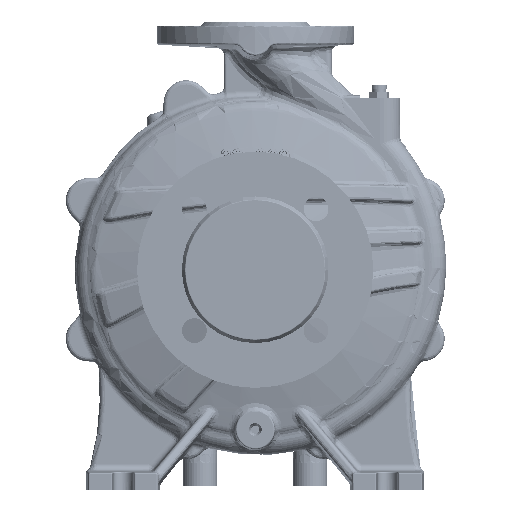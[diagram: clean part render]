
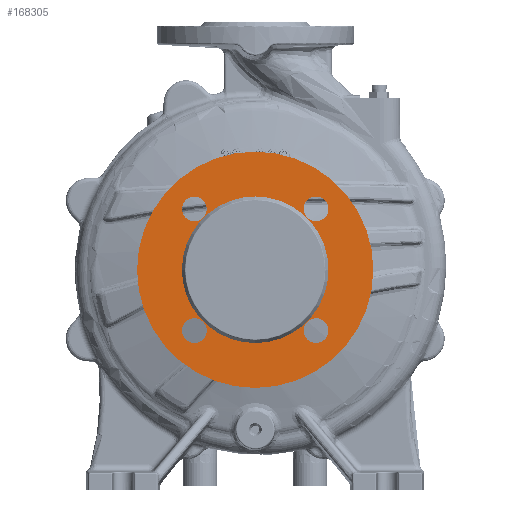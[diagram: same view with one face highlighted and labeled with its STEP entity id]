
A CAD part, left-side view. The second image highlights one B-rep face of the part: STEP entity #168305.
In plain terms, the highlighted planar face has unit normal (-1, 0, 0).
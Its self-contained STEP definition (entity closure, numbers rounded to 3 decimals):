
#34 = DIRECTION ( 'NONE',  ( -1., 0., 0. ) ) ;
#3438 = CARTESIAN_POINT ( 'NONE',  ( -195.97, 53.259, 0. ) ) ;
#4196 = CARTESIAN_POINT ( 'NONE',  ( -195.97, 0., 0. ) ) ;
#5149 = DIRECTION ( 'NONE',  ( 0., 1., 0. ) ) ;
#5166 = FACE_BOUND ( 'NONE', #138880, .T. ) ;
#6058 = AXIS2_PLACEMENT_3D ( 'NONE', #86394, #19169, #5149 ) ;
#7759 = FACE_BOUND ( 'NONE', #133233, .T. ) ;
#9332 = ORIENTED_EDGE ( 'NONE', *, *, #111968, .F. ) ;
#9461 = CARTESIAN_POINT ( 'NONE',  ( -195.97, -35.194, 44.194 ) ) ;
#12588 = EDGE_CURVE ( 'NONE', #19005, #75907, #164333, .T. ) ;
#14917 = DIRECTION ( 'NONE',  ( 0., -1., 0. ) ) ;
#17955 = EDGE_CURVE ( 'NONE', #21002, #156479, #162974, .T. ) ;
#19005 = VERTEX_POINT ( 'NONE', #61557 ) ;
#19169 = DIRECTION ( 'NONE',  ( -1., 0., 0. ) ) ;
#21002 = VERTEX_POINT ( 'NONE', #63402 ) ;
#21644 = CIRCLE ( 'NONE', #158672, 9. ) ;
#23960 = EDGE_LOOP ( 'NONE', ( #116252, #81094 ) ) ;
#27955 = DIRECTION ( 'NONE',  ( -1., 0., 0. ) ) ;
#28350 = CARTESIAN_POINT ( 'NONE',  ( -195.97, -44.194, 44.194 ) ) ;
#30468 = DIRECTION ( 'NONE',  ( -1., 0., 0. ) ) ;
#33944 = VERTEX_POINT ( 'NONE', #102650 ) ;
#37636 = VERTEX_POINT ( 'NONE', #104327 ) ;
#38721 = VERTEX_POINT ( 'NONE', #143799 ) ;
#38966 = EDGE_LOOP ( 'NONE', ( #135964, #96963 ) ) ;
#42000 = CARTESIAN_POINT ( 'NONE',  ( -195.97, -44.194, -44.194 ) ) ;
#46610 = DIRECTION ( 'NONE',  ( 1., 0., 0. ) ) ;
#47112 = CIRCLE ( 'NONE', #91724, 9. ) ;
#49938 = ORIENTED_EDGE ( 'NONE', *, *, #133463, .F. ) ;
#55627 = CARTESIAN_POINT ( 'NONE',  ( -195.97, 44.194, -44.194 ) ) ;
#57029 = AXIS2_PLACEMENT_3D ( 'NONE', #166227, #46610, #88465 ) ;
#58498 = FACE_OUTER_BOUND ( 'NONE', #23960, .T. ) ;
#61081 = PLANE ( 'NONE',  #88376 ) ;
#61557 = CARTESIAN_POINT ( 'NONE',  ( -195.97, 35.194, -44.194 ) ) ;
#63402 = CARTESIAN_POINT ( 'NONE',  ( -195.97, 85.831, 0. ) ) ;
#66202 = DIRECTION ( 'NONE',  ( 0., -1., 0. ) ) ;
#66226 = DIRECTION ( 'NONE',  ( 0., -1., 0. ) ) ;
#67034 = EDGE_CURVE ( 'NONE', #155234, #83062, #126921, .T. ) ;
#67037 = AXIS2_PLACEMENT_3D ( 'NONE', #147615, #27955, #81217 ) ;
#67074 = CARTESIAN_POINT ( 'NONE',  ( -195.97, 0., 0. ) ) ;
#67646 = DIRECTION ( 'NONE',  ( 0., 0., 1. ) ) ;
#68307 = DIRECTION ( 'NONE',  ( 0., 1., 0. ) ) ;
#68503 = CARTESIAN_POINT ( 'NONE',  ( -195.97, -53.194, -44.194 ) ) ;
#75907 = VERTEX_POINT ( 'NONE', #83371 ) ;
#76362 = ORIENTED_EDGE ( 'NONE', *, *, #101012, .F. ) ;
#76430 = DIRECTION ( 'NONE',  ( 0., 0., -1. ) ) ;
#79258 = DIRECTION ( 'NONE',  ( 0., 0., -1. ) ) ;
#79358 = AXIS2_PLACEMENT_3D ( 'NONE', #4196, #30468, #110836 ) ;
#81020 = DIRECTION ( 'NONE',  ( -1., 0., 0. ) ) ;
#81038 = EDGE_CURVE ( 'NONE', #158480, #95590, #21644, .T. ) ;
#81094 = ORIENTED_EDGE ( 'NONE', *, *, #83415, .F. ) ;
#81217 = DIRECTION ( 'NONE',  ( 0., 0., 1. ) ) ;
#81611 = DIRECTION ( 'NONE',  ( -1., 0., 0. ) ) ;
#83062 = VERTEX_POINT ( 'NONE', #3438 ) ;
#83371 = CARTESIAN_POINT ( 'NONE',  ( -195.97, 53.194, -44.194 ) ) ;
#83415 = EDGE_CURVE ( 'NONE', #156479, #21002, #147569, .T. ) ;
#83435 = EDGE_CURVE ( 'NONE', #95590, #158480, #88986, .T. ) ;
#85379 = AXIS2_PLACEMENT_3D ( 'NONE', #154169, #142804, #76430 ) ;
#86394 = CARTESIAN_POINT ( 'NONE',  ( -195.97, 44.194, 44.194 ) ) ;
#88376 = AXIS2_PLACEMENT_3D ( 'NONE', #111804, #165043, #98698 ) ;
#88465 = DIRECTION ( 'NONE',  ( 0., 1., 0. ) ) ;
#88986 = CIRCLE ( 'NONE', #111330, 9. ) ;
#91724 = AXIS2_PLACEMENT_3D ( 'NONE', #28350, #81611, #67646 ) ;
#91838 = CIRCLE ( 'NONE', #105822, 9. ) ;
#91926 = CARTESIAN_POINT ( 'NONE',  ( -195.97, -85.831, 0. ) ) ;
#92262 = EDGE_CURVE ( 'NONE', #83062, #155234, #131674, .T. ) ;
#93240 = DIRECTION ( 'NONE',  ( -1., 0., 0. ) ) ;
#93306 = CARTESIAN_POINT ( 'NONE',  ( -195.97, -44.194, -44.194 ) ) ;
#94633 = AXIS2_PLACEMENT_3D ( 'NONE', #55627, #93240, #79258 ) ;
#95590 = VERTEX_POINT ( 'NONE', #127177 ) ;
#96963 = ORIENTED_EDGE ( 'NONE', *, *, #83435, .F. ) ;
#96978 = ORIENTED_EDGE ( 'NONE', *, *, #12588, .F. ) ;
#98698 = DIRECTION ( 'NONE',  ( 0., 1., 0. ) ) ;
#99877 = ORIENTED_EDGE ( 'NONE', *, *, #133549, .F. ) ;
#100830 = EDGE_LOOP ( 'NONE', ( #96978, #76362 ) ) ;
#100854 = ORIENTED_EDGE ( 'NONE', *, *, #67034, .F. ) ;
#101012 = EDGE_CURVE ( 'NONE', #75907, #19005, #171768, .T. ) ;
#101340 = ORIENTED_EDGE ( 'NONE', *, *, #112319, .F. ) ;
#102650 = CARTESIAN_POINT ( 'NONE',  ( -195.97, 35.194, 44.194 ) ) ;
#102982 = CARTESIAN_POINT ( 'NONE',  ( -195.97, 0., 0. ) ) ;
#104327 = CARTESIAN_POINT ( 'NONE',  ( -195.97, 53.194, 44.194 ) ) ;
#105822 = AXIS2_PLACEMENT_3D ( 'NONE', #161744, #119882, #68307 ) ;
#106433 = DIRECTION ( 'NONE',  ( 1., 0., 0. ) ) ;
#110836 = DIRECTION ( 'NONE',  ( 0., -1., 0. ) ) ;
#111330 = AXIS2_PLACEMENT_3D ( 'NONE', #93306, #81020, #66226 ) ;
#111804 = CARTESIAN_POINT ( 'NONE',  ( -195.97, 0., -83.325 ) ) ;
#111968 = EDGE_CURVE ( 'NONE', #38721, #118111, #47112, .T. ) ;
#112319 = EDGE_CURVE ( 'NONE', #33944, #37636, #91838, .T. ) ;
#116252 = ORIENTED_EDGE ( 'NONE', *, *, #17955, .F. ) ;
#118111 = VERTEX_POINT ( 'NONE', #9461 ) ;
#118338 = CARTESIAN_POINT ( 'NONE',  ( -195.97, -53.259, 0. ) ) ;
#119882 = DIRECTION ( 'NONE',  ( -1., 0., 0. ) ) ;
#121260 = DIRECTION ( 'NONE',  ( 0., 1., 0. ) ) ;
#124910 = FACE_BOUND ( 'NONE', #100830, .T. ) ;
#126921 = CIRCLE ( 'NONE', #79358, 53.259 ) ;
#127177 = CARTESIAN_POINT ( 'NONE',  ( -195.97, -35.194, -44.194 ) ) ;
#127500 = FACE_BOUND ( 'NONE', #164475, .T. ) ;
#131674 = CIRCLE ( 'NONE', #148362, 53.259 ) ;
#132598 = DIRECTION ( 'NONE',  ( -1., 0., 0. ) ) ;
#133233 = EDGE_LOOP ( 'NONE', ( #100854, #134034 ) ) ;
#133463 = EDGE_CURVE ( 'NONE', #118111, #38721, #156688, .T. ) ;
#133549 = EDGE_CURVE ( 'NONE', #37636, #33944, #148334, .T. ) ;
#134034 = ORIENTED_EDGE ( 'NONE', *, *, #92262, .F. ) ;
#135964 = ORIENTED_EDGE ( 'NONE', *, *, #81038, .F. ) ;
#138008 = FACE_BOUND ( 'NONE', #38966, .T. ) ;
#138880 = EDGE_LOOP ( 'NONE', ( #9332, #49938 ) ) ;
#142804 = DIRECTION ( 'NONE',  ( -1., 0., 0. ) ) ;
#143799 = CARTESIAN_POINT ( 'NONE',  ( -195.97, -53.194, 44.194 ) ) ;
#147569 = CIRCLE ( 'NONE', #150310, 85.831 ) ;
#147615 = CARTESIAN_POINT ( 'NONE',  ( -195.97, -44.194, 44.194 ) ) ;
#148334 = CIRCLE ( 'NONE', #6058, 9. ) ;
#148362 = AXIS2_PLACEMENT_3D ( 'NONE', #102982, #132598, #66202 ) ;
#150310 = AXIS2_PLACEMENT_3D ( 'NONE', #67074, #106433, #121260 ) ;
#154169 = CARTESIAN_POINT ( 'NONE',  ( -195.97, 44.194, -44.194 ) ) ;
#155234 = VERTEX_POINT ( 'NONE', #118338 ) ;
#156479 = VERTEX_POINT ( 'NONE', #91926 ) ;
#156688 = CIRCLE ( 'NONE', #67037, 9. ) ;
#158480 = VERTEX_POINT ( 'NONE', #68503 ) ;
#158672 = AXIS2_PLACEMENT_3D ( 'NONE', #42000, #34, #14917 ) ;
#161744 = CARTESIAN_POINT ( 'NONE',  ( -195.97, 44.194, 44.194 ) ) ;
#162974 = CIRCLE ( 'NONE', #57029, 85.831 ) ;
#164333 = CIRCLE ( 'NONE', #94633, 9. ) ;
#164475 = EDGE_LOOP ( 'NONE', ( #101340, #99877 ) ) ;
#165043 = DIRECTION ( 'NONE',  ( 1., 0., 0. ) ) ;
#166227 = CARTESIAN_POINT ( 'NONE',  ( -195.97, 0., 0. ) ) ;
#168305 = ADVANCED_FACE ( 'NONE', ( #138008, #127500, #124910, #5166, #7759, #58498 ), #61081, .F. ) ;
#171768 = CIRCLE ( 'NONE', #85379, 9. ) ;
